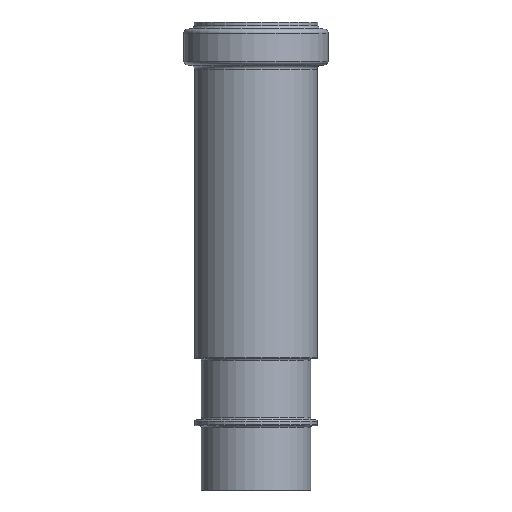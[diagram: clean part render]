
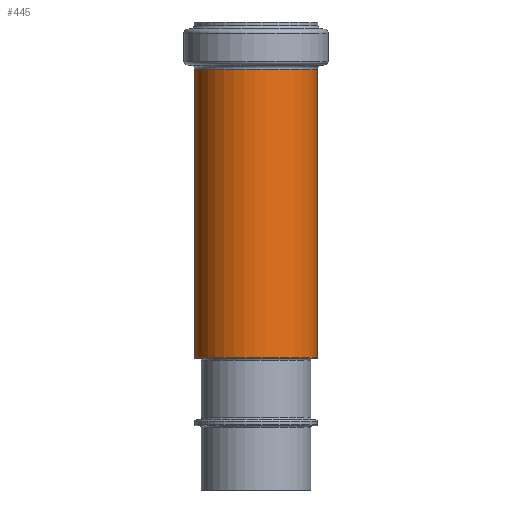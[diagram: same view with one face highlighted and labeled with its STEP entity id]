
A CAD part, front view. The second image highlights one B-rep face of the part: STEP entity #445.
In plain terms, the highlighted cylindrical face has radius 31.65 mm (diameter 63.3 mm), a full revolution.
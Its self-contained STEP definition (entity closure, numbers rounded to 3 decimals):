
#28=CYLINDRICAL_SURFACE('',#511,31.65);
#47=FACE_BOUND('',#136,.T.);
#85=FACE_OUTER_BOUND('',#135,.T.);
#135=EDGE_LOOP('',(#325));
#136=EDGE_LOOP('',(#326));
#191=CIRCLE('',#493,31.65);
#201=CIRCLE('',#512,31.65);
#229=VERTEX_POINT('',#728);
#239=VERTEX_POINT('',#757);
#267=EDGE_CURVE('',#229,#229,#191,.T.);
#277=EDGE_CURVE('',#239,#239,#201,.T.);
#325=ORIENTED_EDGE('',*,*,#277,.T.);
#326=ORIENTED_EDGE('',*,*,#267,.T.);
#445=ADVANCED_FACE('',(#85,#47),#28,.T.);
#493=AXIS2_PLACEMENT_3D('',#729,#579,#580);
#511=AXIS2_PLACEMENT_3D('',#756,#615,#616);
#512=AXIS2_PLACEMENT_3D('',#758,#617,#618);
#579=DIRECTION('center_axis',(0.,0.,-1.));
#580=DIRECTION('ref_axis',(-0.878,-0.479,0.));
#615=DIRECTION('center_axis',(0.,0.,1.));
#616=DIRECTION('ref_axis',(1.,0.,0.));
#617=DIRECTION('center_axis',(0.,0.,1.));
#618=DIRECTION('ref_axis',(-0.878,-0.479,0.));
#728=CARTESIAN_POINT('',(-27.775,-15.174,-24.258));
#729=CARTESIAN_POINT('Origin',(0.,0.,-24.258));
#756=CARTESIAN_POINT('Origin',(0.,0.,-120.39));
#757=CARTESIAN_POINT('',(27.775,15.174,-172.471));
#758=CARTESIAN_POINT('Origin',(0.,0.,-172.471));
